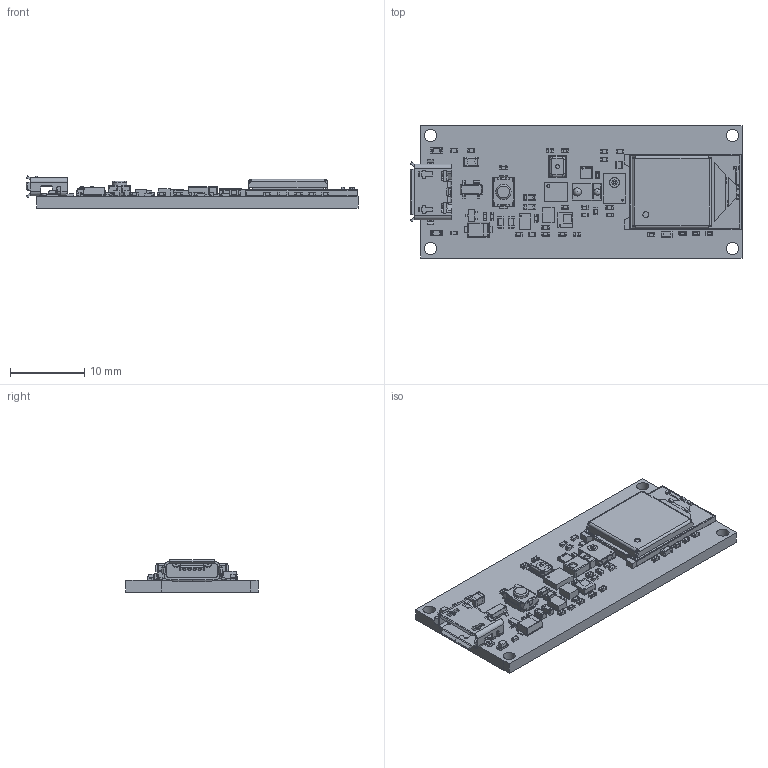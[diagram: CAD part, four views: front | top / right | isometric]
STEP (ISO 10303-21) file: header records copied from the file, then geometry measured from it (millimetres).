
FILE_DESCRIPTION(('Open CASCADE Model'),'2;1');
FILE_NAME('Open CASCADE Shape Model','2025-09-26T03:42:38',('Author'),( 'Open CASCADE'),'Open CASCADE STEP processor 7.5','Open CASCADE 7.5' ,'Unknown');
FILE_SCHEMA(('AUTOMOTIVE_DESIGN { 1 0 10303 214 1 1 1 1 }'));
Length unit declared in the file: millimetre
Products named in the file (100): PCB; Board; Open CASCADE STEP translator 7.5 1.1.1; R2; RES-0402; R1; C2; CAP-0402; J1; ZX62-AB-5PA(31); R12; R11; R7; C13; U2; 624360256; Open CASCADE STEP translator 6.8 38.1; Body; Open CASCADE STEP translator 6.8 38.2.1; Pin_Shape; R9; R14; PB1; PTS820J20KSMTRLFS; U8; HS3000; HS300substrate; HS300shield; U7; IC_Bosch_Sensortec_BMM150_eec; body; pins; logo; logo2; U5; APDS-99602; U3; MP34DT06J; R15; R13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
Assembly tree (151 placements, depth 6):
  PCB
    Board
      Open CASCADE STEP translator 7.5 1.1.1
    R2
      RES-0402
    R1
      RES-0402
    C2
      CAP-0402
    J1
      ZX62-AB-5PA(31)
    R12
      RES-0402
    R11
      RES-0402
    R7
      RES-0402
    C13
      CAP-0402
    U2
      624360256
        Open CASCADE STEP translator 6.8 38.1
        Body
          Open CASCADE STEP translator 6.8 38.2.1
        Pin_Shape  x14
    R9
      RES-0402
    R14
      RES-0402
    PB1
      PTS820J20KSMTRLFS
    U8
      HS3000
        HS300substrate
        HS300shield
    U7
      IC_Bosch_Sensortec_BMM150_eec
        body
        pins
        logo
        logo2
    U5
      APDS-99602
    U3
      MP34DT06J
    R15
      RES-0402
    R13
      RES-0402
    U9
      LPS22HB
    DL3
      SMLP34RGB
    C16
      CAP-0402
    C15
      CAP-0402
    C14
      CAP-0402
    C12
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Bounding box: 44.65 x 17.78 x 4.36 mm (x, y, z)
Volume: 1590.2 mm3; surface area: 3205.2 mm2
Topology: 101 solids, 125 shells, 4313 faces, 10674 edges, 6490 vertices
Faces by surface type: plane 2608, cylinder 1193, sphere 262, bspline 209, torus 29, revolution 8, cone 4
Full cylindrical faces by diameter (mm): 0.07 x2, 0.2 x1, 0.25 x1, 0.388 x1, 0.4 x2, 0.6 x1, 0.8 x2, 1.3 x1, 1.652 x4, 2 x1, 2.05 x1
Entity records: 94437 total; most frequent: CARTESIAN_POINT 16784, ORIENTED_EDGE 13128, DIRECTION 13106, EDGE_CURVE 6567, LINE 4990, VECTOR 4990, VERTEX_POINT 4290, AXIS2_PLACEMENT_3D 4054
